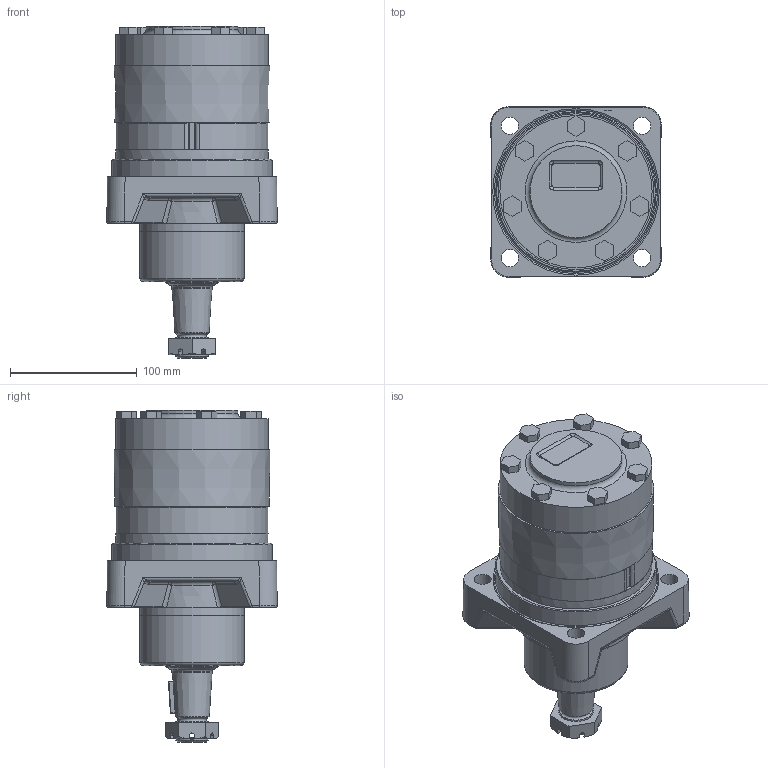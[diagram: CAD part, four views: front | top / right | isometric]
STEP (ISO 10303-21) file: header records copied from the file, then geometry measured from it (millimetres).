
FILE_DESCRIPTION( ( 'STEP AP214' ), '1' );
FILE_NAME( 'p:/temp/worker_284/temp/exporttempdir_5184_232_QuIM1/format_0/184-0007-002.stp', '2020-11-26T09:54:09', ( 'License CC BY-ND 4.0' ), ( 'CADENAS' ), ' ', 'PARTsolutions', ' ' );
FILE_SCHEMA( ( 'AUTOMOTIVE_DESIGN { 1 0 10303 214 1 1 1 1 }' ) );
Length unit declared in the file: inch
Products named in the file (2): 184-0007-002; 1
Assembly tree (1 placements, depth 2):
  184-0007-002
    1
Bounding box: 134.61 x 134.61 x 262.31 mm (x, y, z)
Volume: 2163713.1 mm3; surface area: 145213.5 mm2
Topology: 1 solids, 3 shells, 329 faces, 824 edges, 515 vertices
Faces by surface type: plane 125, cylinder 98, cone 38, bspline 32, sphere 20, torus 16
Full cylindrical faces by diameter (mm): 4.064 x2, 5.563 x1, 13.589 x4, 20.523 x2, 25.4 x2, 31.75 x1, 33.401 x1, 34.138 x2, 41.125 x1, 64.292 x1, 70.663 x1, 72.644 x1, 73.812 x1, 82.169 x1, 82.499 x1, 83.82 x1, 86.284 x1, 90.729 x1, 120.294 x2, 126.949 x1
Entity records: 11817 total; most frequent: CARTESIAN_POINT 4767, ORIENTED_EDGE 1472, DIRECTION 1307, EDGE_CURVE 736, AXIS2_PLACEMENT_3D 509, VERTEX_POINT 490, EDGE_LOOP 424, FACE_OUTER_BOUND 369
